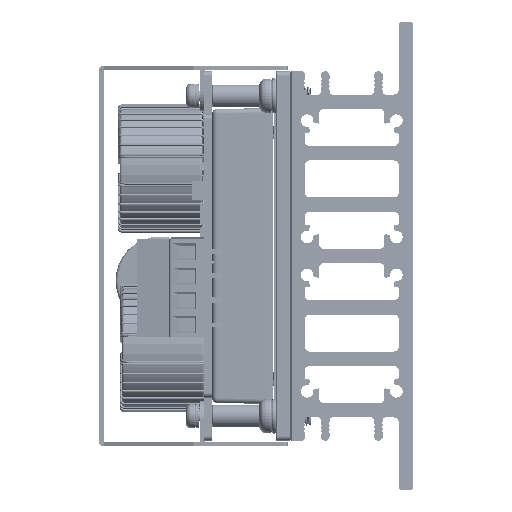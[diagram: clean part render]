
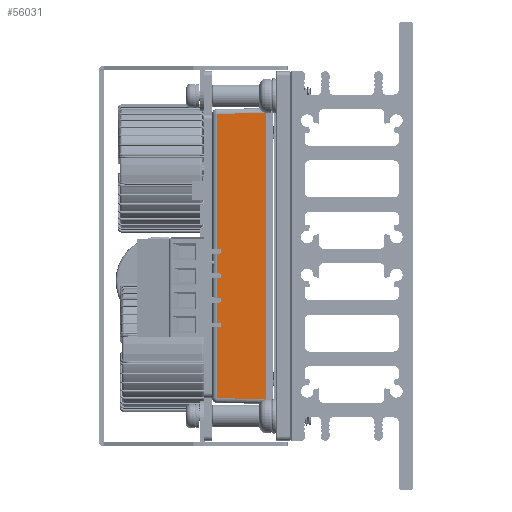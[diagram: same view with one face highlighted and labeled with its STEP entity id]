
A CAD part, left-side view. The second image highlights one B-rep face of the part: STEP entity #56031.
In plain terms, the highlighted planar face has unit normal (-1, 0.018, 0).
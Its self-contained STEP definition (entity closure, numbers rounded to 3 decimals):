
#9232 = ORIENTED_EDGE ( 'NONE', *, *, #206472, .T. ) ;
#16659 = LINE ( 'NONE', #147417, #79551 ) ;
#16949 = ORIENTED_EDGE ( 'NONE', *, *, #201641, .T. ) ;
#20256 = CARTESIAN_POINT ( 'NONE',  ( -6.294, 8., -30.5 ) ) ;
#38088 = VERTEX_POINT ( 'NONE', #208049 ) ;
#53892 = CARTESIAN_POINT ( 'NONE',  ( -6.117, 18.117, -29.324 ) ) ;
#56031 = ADVANCED_FACE ( 'NONE', ( #111541 ), #178002, .T. ) ;
#58899 = DIRECTION ( 'NONE',  ( 0.017, 1., -0.017 ) ) ;
#67237 = CARTESIAN_POINT ( 'NONE',  ( -6.276, 9.047, -29.482 ) ) ;
#77589 = VECTOR ( 'NONE', #136819, 1000. ) ;
#78861 = DIRECTION ( 'NONE',  ( -1., 0.017, 0. ) ) ;
#79551 = VECTOR ( 'NONE', #131090, 1000. ) ;
#86721 = LINE ( 'NONE', #20256, #77589 ) ;
#95194 = VECTOR ( 'NONE', #133675, 1000. ) ;
#109041 = CARTESIAN_POINT ( 'NONE',  ( -6.294, 7.983, 29.5 ) ) ;
#109415 = DIRECTION ( 'NONE',  ( 0.017, 1., 0. ) ) ;
#111541 = FACE_OUTER_BOUND ( 'NONE', #189600, .T. ) ;
#122521 = VERTEX_POINT ( 'NONE', #53892 ) ;
#123194 = CARTESIAN_POINT ( 'NONE',  ( -6.294, 8., 29.5 ) ) ;
#126111 = VERTEX_POINT ( 'NONE', #123194 ) ;
#131090 = DIRECTION ( 'NONE',  ( 0., 0., -1. ) ) ;
#133667 = CARTESIAN_POINT ( 'NONE',  ( -6.117, 18.117, 29.324 ) ) ;
#133675 = DIRECTION ( 'NONE',  ( -0.017, -1., -0.017 ) ) ;
#136819 = DIRECTION ( 'NONE',  ( 0., 0., 1. ) ) ;
#145271 = EDGE_CURVE ( 'NONE', #122521, #38088, #149969, .T. ) ;
#147417 = CARTESIAN_POINT ( 'NONE',  ( -6.117, 18.117, -30.306 ) ) ;
#149969 = LINE ( 'NONE', #67237, #95194 ) ;
#158366 = ORIENTED_EDGE ( 'NONE', *, *, #208893, .T. ) ;
#162730 = CARTESIAN_POINT ( 'NONE',  ( -6.294, 8., 30.5 ) ) ;
#164972 = VECTOR ( 'NONE', #58899, 1000. ) ;
#172657 = ORIENTED_EDGE ( 'NONE', *, *, #145271, .T. ) ;
#178002 = PLANE ( 'NONE',  #180296 ) ;
#180296 = AXIS2_PLACEMENT_3D ( 'NONE', #162730, #78861, #109415 ) ;
#182270 = VERTEX_POINT ( 'NONE', #133667 ) ;
#189600 = EDGE_LOOP ( 'NONE', ( #9232, #158366, #16949, #172657 ) ) ;
#201641 = EDGE_CURVE ( 'NONE', #182270, #122521, #16659, .T. ) ;
#204924 = LINE ( 'NONE', #109041, #164972 ) ;
#206472 = EDGE_CURVE ( 'NONE', #38088, #126111, #86721, .T. ) ;
#208049 = CARTESIAN_POINT ( 'NONE',  ( -6.294, 8., -29.5 ) ) ;
#208893 = EDGE_CURVE ( 'NONE', #126111, #182270, #204924, .T. ) ;
